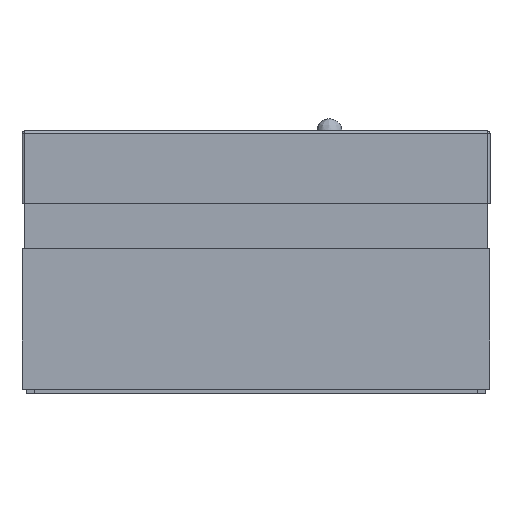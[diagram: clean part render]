
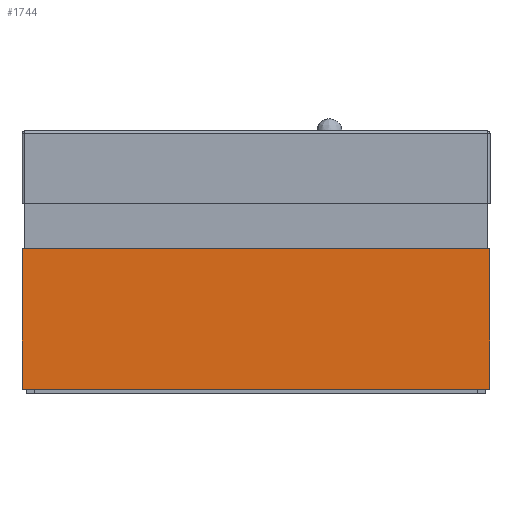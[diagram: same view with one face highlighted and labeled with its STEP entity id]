
A CAD part, left-side view. The second image highlights one B-rep face of the part: STEP entity #1744.
In plain terms, the highlighted planar face has unit normal (-1, 0, 0).
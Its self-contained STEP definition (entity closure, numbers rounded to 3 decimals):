
#2 = ORIENTED_EDGE ( 'NONE', *, *, #2133, .F. ) ;
#118 = VERTEX_POINT ( 'NONE', #4095 ) ;
#226 = LINE ( 'NONE', #2366, #3348 ) ;
#258 = VERTEX_POINT ( 'NONE', #1737 ) ;
#325 = VECTOR ( 'NONE', #930, 1000. ) ;
#535 = LINE ( 'NONE', #558, #4017 ) ;
#558 = CARTESIAN_POINT ( 'NONE',  ( 0., 0., 0.5 ) ) ;
#930 = DIRECTION ( 'NONE',  ( 0., 0., -1. ) ) ;
#1113 = CARTESIAN_POINT ( 'NONE',  ( 0., 0., 0.5 ) ) ;
#1185 = AXIS2_PLACEMENT_3D ( 'NONE', #1828, #3784, #2608 ) ;
#1230 = VERTEX_POINT ( 'NONE', #4196 ) ;
#1390 = VERTEX_POINT ( 'NONE', #1113 ) ;
#1737 = CARTESIAN_POINT ( 'NONE',  ( 0., 0., 17.9 ) ) ;
#1744 = ADVANCED_FACE ( 'NONE', ( #2183 ), #1852, .F. ) ;
#1828 = CARTESIAN_POINT ( 'NONE',  ( 0., 0., 0.5 ) ) ;
#1852 = PLANE ( 'NONE',  #1185 ) ;
#1940 = EDGE_CURVE ( 'NONE', #118, #258, #3591, .T. ) ;
#1950 = ORIENTED_EDGE ( 'NONE', *, *, #2108, .T. ) ;
#2023 = DIRECTION ( 'NONE',  ( 0., -1., 0. ) ) ;
#2108 = EDGE_CURVE ( 'NONE', #118, #1230, #4602, .T. ) ;
#2133 = EDGE_CURVE ( 'NONE', #1390, #1230, #535, .T. ) ;
#2174 = DIRECTION ( 'NONE',  ( 0., 1., 0. ) ) ;
#2183 = FACE_OUTER_BOUND ( 'NONE', #4470, .T. ) ;
#2366 = CARTESIAN_POINT ( 'NONE',  ( 0., 0., 0.5 ) ) ;
#2494 = ORIENTED_EDGE ( 'NONE', *, *, #1940, .F. ) ;
#2608 = DIRECTION ( 'NONE',  ( 0., 1., 0. ) ) ;
#2627 = CARTESIAN_POINT ( 'NONE',  ( 0., 58., 0.5 ) ) ;
#3057 = EDGE_CURVE ( 'NONE', #1390, #258, #226, .T. ) ;
#3189 = CARTESIAN_POINT ( 'NONE',  ( 0., 41.654, 17.9 ) ) ;
#3348 = VECTOR ( 'NONE', #3992, 1000. ) ;
#3591 = LINE ( 'NONE', #3189, #4187 ) ;
#3784 = DIRECTION ( 'NONE',  ( 1., 0., 0. ) ) ;
#3992 = DIRECTION ( 'NONE',  ( 0., 0., 1. ) ) ;
#4017 = VECTOR ( 'NONE', #2174, 1000. ) ;
#4095 = CARTESIAN_POINT ( 'NONE',  ( 0., 58., 17.9 ) ) ;
#4187 = VECTOR ( 'NONE', #2023, 1000. ) ;
#4196 = CARTESIAN_POINT ( 'NONE',  ( 0., 58., 0.5 ) ) ;
#4470 = EDGE_LOOP ( 'NONE', ( #4922, #2494, #1950, #2 ) ) ;
#4602 = LINE ( 'NONE', #2627, #325 ) ;
#4922 = ORIENTED_EDGE ( 'NONE', *, *, #3057, .T. ) ;
